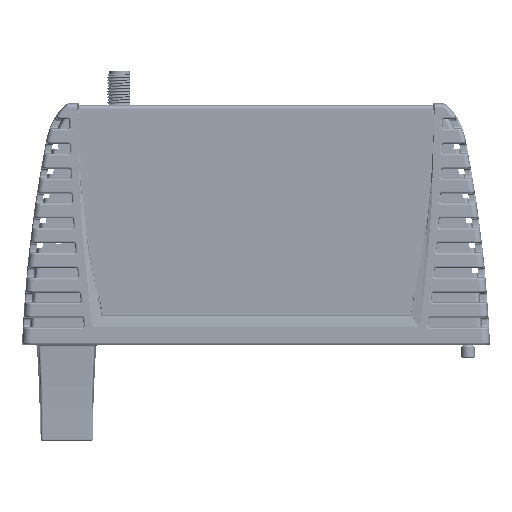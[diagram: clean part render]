
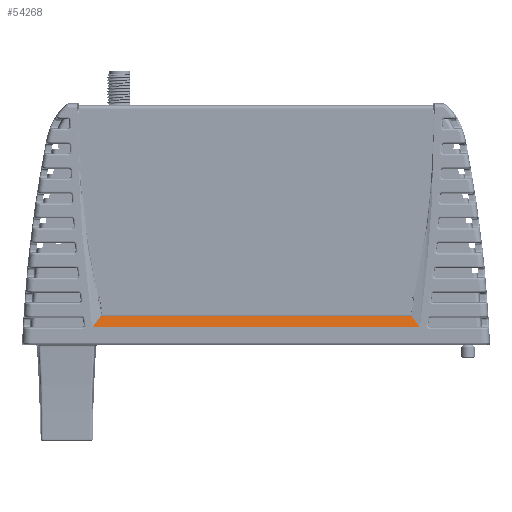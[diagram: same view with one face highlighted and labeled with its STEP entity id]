
A CAD part, left-side view. The second image highlights one B-rep face of the part: STEP entity #54268.
In plain terms, the highlighted planar face has unit normal (-0.986, 0, 0.164).
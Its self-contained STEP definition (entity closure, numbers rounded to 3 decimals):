
#17555 = VECTOR ( 'NONE', #23397, 1000. ) ;
#19173 = CARTESIAN_POINT ( 'NONE',  ( -8.45, -40.125, -26. ) ) ;
#23397 = DIRECTION ( 'NONE',  ( 0., 1., 0. ) ) ;
#24223 = LINE ( 'NONE', #129743, #17555 ) ;
#24707 = DIRECTION ( 'NONE',  ( 0., -1., 0. ) ) ;
#27840 = CARTESIAN_POINT ( 'NONE',  ( -8.7, 41.25, -27.5 ) ) ;
#41013 = LINE ( 'NONE', #19173, #261382 ) ;
#44496 = LINE ( 'NONE', #80321, #264890 ) ;
#52658 = CARTESIAN_POINT ( 'NONE',  ( 0.467, 0., 27.5 ) ) ;
#53559 = PLANE ( 'NONE',  #210933 ) ;
#54268 = ADVANCED_FACE ( 'NONE', ( #74225 ), #53559, .F. ) ;
#67948 = VERTEX_POINT ( 'NONE', #27840 ) ;
#74225 = FACE_OUTER_BOUND ( 'NONE', #80584, .T. ) ;
#74640 = CARTESIAN_POINT ( 'NONE',  ( -8.7, -41.25, -27.5 ) ) ;
#74794 = ORIENTED_EDGE ( 'NONE', *, *, #112182, .T. ) ;
#75104 = DIRECTION ( 'NONE',  ( 0.986, 0., -0.164 ) ) ;
#80321 = CARTESIAN_POINT ( 'NONE',  ( -8.7, 41.25, -27.5 ) ) ;
#80584 = EDGE_LOOP ( 'NONE', ( #125694, #117289, #74794, #190168 ) ) ;
#112182 = EDGE_CURVE ( 'NONE', #237474, #262708, #41013, .T. ) ;
#117289 = ORIENTED_EDGE ( 'NONE', *, *, #120325, .F. ) ;
#120325 = EDGE_CURVE ( 'NONE', #237474, #67948, #24223, .T. ) ;
#120341 = VECTOR ( 'NONE', #24707, 1000. ) ;
#125694 = ORIENTED_EDGE ( 'NONE', *, *, #172500, .F. ) ;
#129743 = CARTESIAN_POINT ( 'NONE',  ( -8.7, 41.25, -27.5 ) ) ;
#146980 = DIRECTION ( 'NONE',  ( 0.132, 0.595, 0.793 ) ) ;
#172500 = EDGE_CURVE ( 'NONE', #67948, #270646, #44496, .T. ) ;
#173962 = CARTESIAN_POINT ( 'NONE',  ( -8.2, 39., -24.5 ) ) ;
#175466 = EDGE_CURVE ( 'NONE', #270646, #262708, #233791, .T. ) ;
#190168 = ORIENTED_EDGE ( 'NONE', *, *, #175466, .F. ) ;
#196345 = CARTESIAN_POINT ( 'NONE',  ( -8.2, 39., -24.5 ) ) ;
#210933 = AXIS2_PLACEMENT_3D ( 'NONE', #52658, #75104, #224331 ) ;
#224331 = DIRECTION ( 'NONE',  ( 0.164, 0., 0.986 ) ) ;
#228570 = DIRECTION ( 'NONE',  ( 0.132, -0.595, 0.793 ) ) ;
#233791 = LINE ( 'NONE', #173962, #120341 ) ;
#237474 = VERTEX_POINT ( 'NONE', #74640 ) ;
#257358 = CARTESIAN_POINT ( 'NONE',  ( -8.2, -39., -24.5 ) ) ;
#261382 = VECTOR ( 'NONE', #146980, 1000. ) ;
#262708 = VERTEX_POINT ( 'NONE', #257358 ) ;
#264890 = VECTOR ( 'NONE', #228570, 1000. ) ;
#270646 = VERTEX_POINT ( 'NONE', #196345 ) ;
